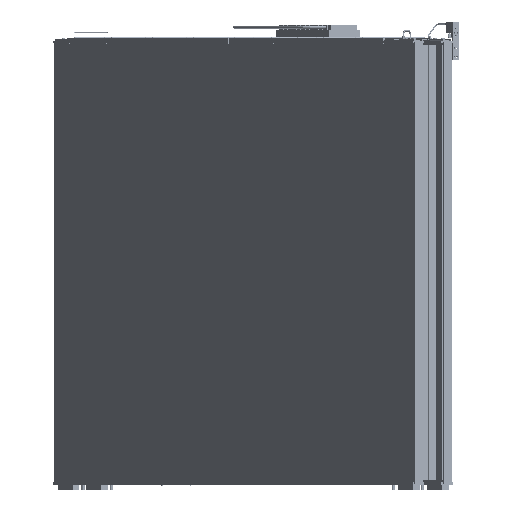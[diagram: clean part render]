
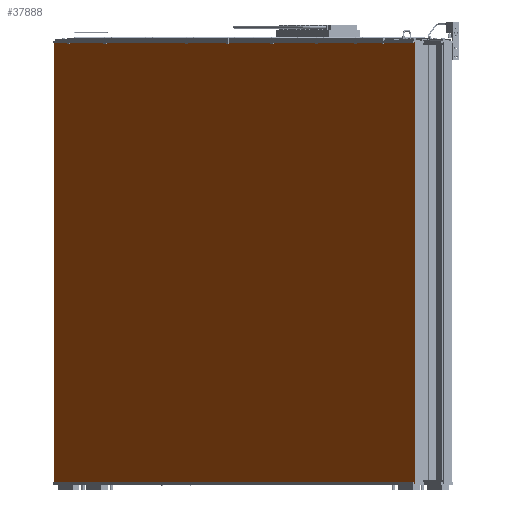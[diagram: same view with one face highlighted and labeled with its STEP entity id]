
A CAD part, left-side view. The second image highlights one B-rep face of the part: STEP entity #37888.
In plain terms, the highlighted planar face has unit normal (-0.5, 0.866, 0).
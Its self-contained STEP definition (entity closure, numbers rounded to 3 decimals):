
#37888=ADVANCED_FACE('',(#57318),#49917,.F.);
#49917=PLANE('',#228872);
#57318=FACE_OUTER_BOUND('',#66618,.T.);
#66618=EDGE_LOOP('',(#90234,#90235,#90236,#90237));
#90234=ORIENTED_EDGE('',*,*,#162498,.F.);
#90235=ORIENTED_EDGE('',*,*,#162492,.F.);
#90236=ORIENTED_EDGE('',*,*,#162495,.F.);
#90237=ORIENTED_EDGE('',*,*,#162497,.F.);
#140980=VERTEX_POINT('',#314954);
#140981=VERTEX_POINT('',#314956);
#140982=VERTEX_POINT('',#314960);
#140983=VERTEX_POINT('',#314964);
#162492=EDGE_CURVE('',#140980,#140981,#189944,.T.);
#162495=EDGE_CURVE('',#140982,#140980,#189947,.T.);
#162497=EDGE_CURVE('',#140983,#140982,#189949,.T.);
#162498=EDGE_CURVE('',#140981,#140983,#189950,.T.);
#189944=LINE('',#314955,#208624);
#189947=LINE('',#314961,#208627);
#189949=LINE('',#314965,#208629);
#189950=LINE('',#314967,#208630);
#208624=VECTOR('',#254590,1.);
#208627=VECTOR('',#254595,1.);
#208629=VECTOR('',#254599,1.);
#208630=VECTOR('',#254602,1.);
#228872=AXIS2_PLACEMENT_3D('',#314969,#254605,#254606);
#254590=DIRECTION('',(0.866,0.5,0.));
#254595=DIRECTION('',(0.,0.,-1.));
#254599=DIRECTION('',(-0.866,-0.5,0.));
#254602=DIRECTION('',(0.,0.,1.));
#254605=DIRECTION('',(0.5,-0.866,0.));
#254606=DIRECTION('',(0.,0.,1.));
#314954=CARTESIAN_POINT('',(-6307.892,4861.699,4085.5));
#314955=CARTESIAN_POINT('',(-4540.324,5882.182,4085.5));
#314956=CARTESIAN_POINT('',(-2772.757,6902.665,4085.5));
#314960=CARTESIAN_POINT('',(-6307.892,4861.699,6581.5));
#314961=CARTESIAN_POINT('',(-6307.892,4861.699,5333.5));
#314964=CARTESIAN_POINT('',(-2772.757,6902.665,6581.5));
#314965=CARTESIAN_POINT('',(-4540.324,5882.182,6581.5));
#314967=CARTESIAN_POINT('',(-2772.757,6902.665,5333.5));
#314969=CARTESIAN_POINT('',(-2772.757,6902.665,4085.5));
